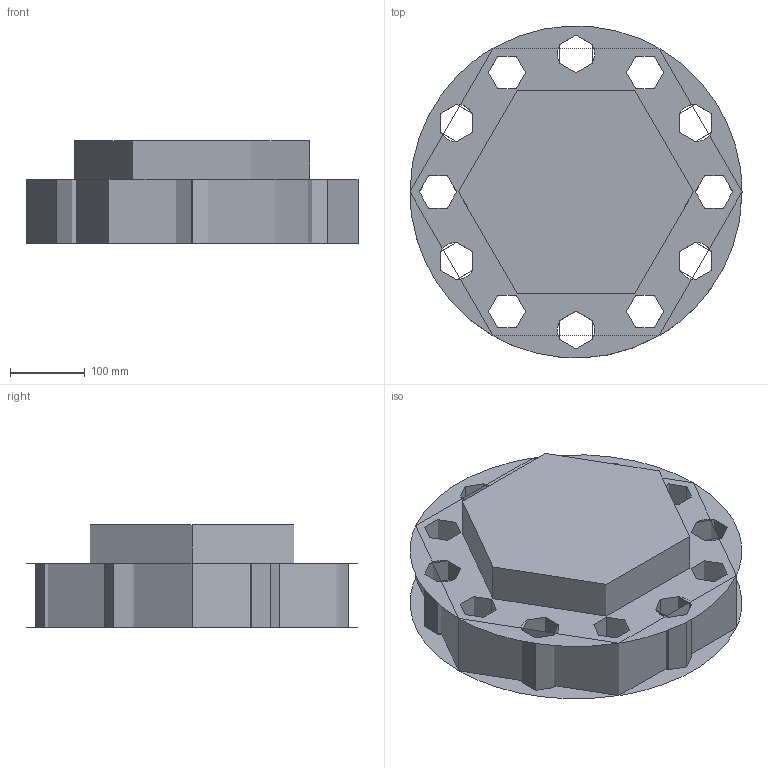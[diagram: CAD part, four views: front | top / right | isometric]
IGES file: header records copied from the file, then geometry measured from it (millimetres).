
Start section: This line is the first line of the start section. You can replace these lines and/or  add as many as you want.
Bounding box: 445 x 444.4 x 138 mm (x, y, z)
Topology: 0 solids, 0 shells, 32 faces, 392 edges, 392 vertices
Faces by surface type: bspline 31, plane 1
